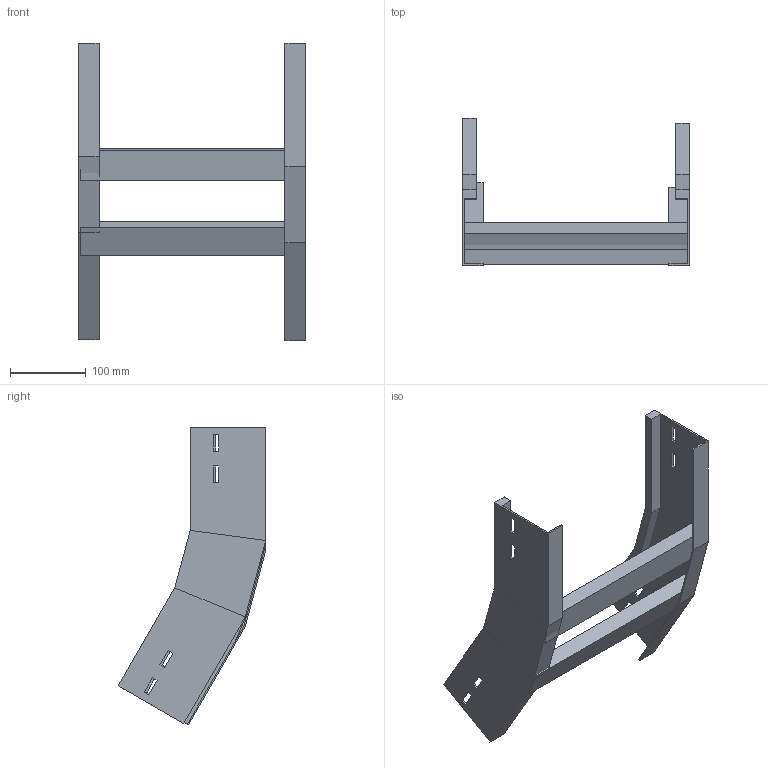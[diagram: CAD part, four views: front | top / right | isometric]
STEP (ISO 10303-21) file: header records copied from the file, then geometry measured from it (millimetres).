
FILE_DESCRIPTION (( 'STEP AP214' ), '1' );
FILE_NAME ('A2X32B3D300XX.step', '2025-03-20T09:56:58', ( '' ), ( '' ), 'SwSTEP 2.0', 'SolidWorks 2023', '' );
FILE_SCHEMA (( 'AUTOMOTIVE_DESIGN' ));
Length unit declared in the file: millimetre
Products named in the file (3): A2X32B3D300XX; TRAVERSINO_300; LONGH.SALITA_30°_H100_R300
Assembly tree (4 placements, depth 2):
  A2X32B3D300XX
    LONGH.SALITA_30°_H100_R300  x2
    TRAVERSINO_300  x2
Bounding box: 300 x 195.25 x 394.23 mm (x, y, z)
Volume: 816886.2 mm3; surface area: 300179.2 mm2
Topology: 4 solids, 4 shells, 96 faces, 232 edges, 144 vertices
Faces by surface type: plane 96
Entity records: 1472 total; most frequent: CARTESIAN_POINT 243, ORIENTED_EDGE 232, DIRECTION 226, LINE 116, EDGE_CURVE 116, VECTOR 116, VERTEX_POINT 72, EDGE_LOOP 56
